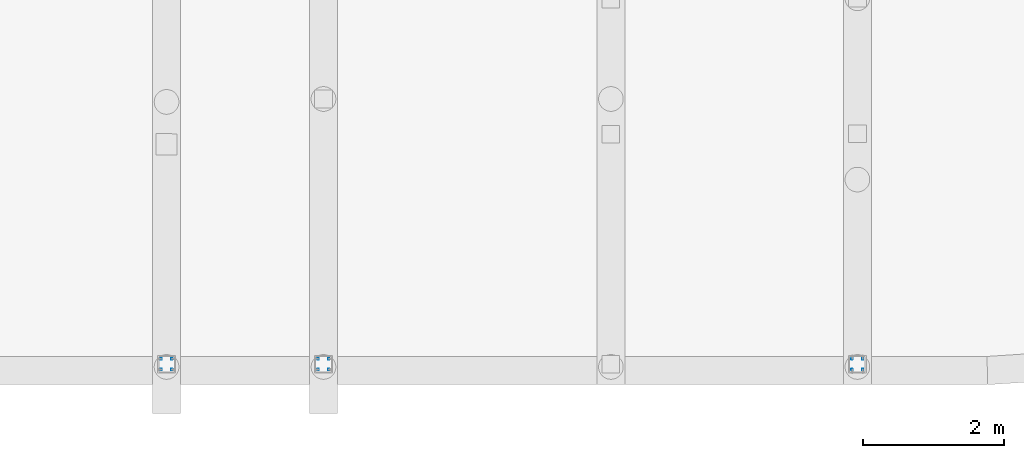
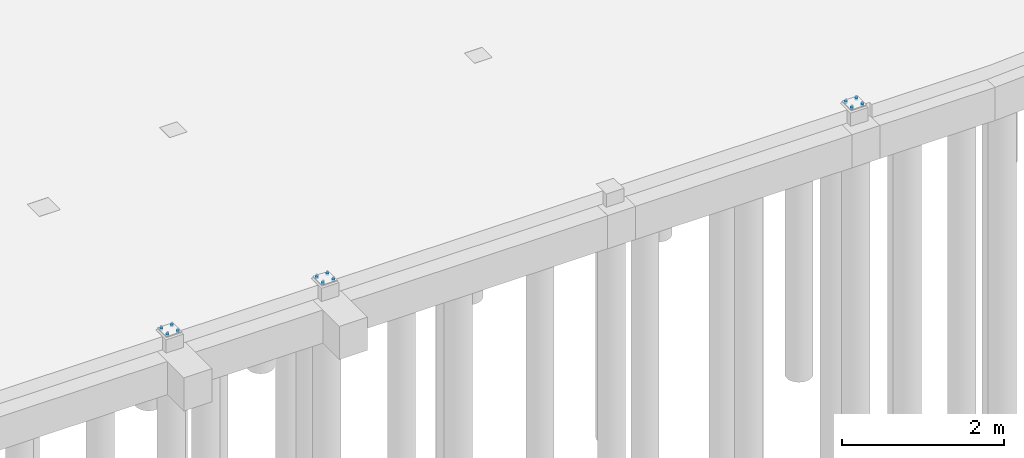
# One storey, part 10 of 22: 3 mechanical fasteners.
"""IFC2X3 building model written with IfcOpenShell, lengths in millimetres."""

from ifc_helpers import new_model, si_unit, frame, origin_with_axes, origin_2d_with_axis, place, context, subcontext, project, spatial, circle, extrude, source, transform, mapped, material, type_object, element, save


model = new_model("IFC2X3")

# Units and contexts
model_context = context("Model", 3, precision=1e-05, world=origin_with_axes())
body_context = subcontext(model_context, "Body", "Model", "MODEL_VIEW")
ifc_project = project(units=[si_unit("LENGTHUNIT", "METRE", prefix="MILLI"), si_unit("AREAUNIT", "SQUARE_METRE"), si_unit("VOLUMEUNIT", "CUBIC_METRE"), si_unit("MASSUNIT", "GRAM", prefix="KILO"), si_unit("TIMEUNIT", "SECOND"), si_unit("PLANEANGLEUNIT", "RADIAN"), si_unit("SOLIDANGLEUNIT", "STERADIAN"), si_unit("THERMODYNAMICTEMPERATUREUNIT", "DEGREE_CELSIUS"), si_unit("LUMINOUSINTENSITYUNIT", "LUMEN")], contexts=[model_context])

# Site, building, storey
site_placement = place(None, origin_with_axes())
site = spatial("IfcSite", under=ifc_project, at=site_placement, Name="Undefined", CompositionType="ELEMENT")
building_placement = place(site_placement, origin_with_axes())
building = spatial("IfcBuilding", under=site, at=building_placement, Name="Undefined", CompositionType="ELEMENT")
storey_placement = place(building_placement, origin_with_axes())
storey = spatial("IfcBuildingStorey", under=building, at=storey_placement, Name="Undefined", CompositionType="ELEMENT", Elevation=0.0)

# Mechanical fasteners
ifc_material = material(Name="Undefined")
mechanical_fastener_type = type_object("IfcMechanicalFastenerType", Name="Bolt assembly")
shared_shape = source(origin_with_axes(), body_context, "Body", "SweptSolid", [
    extrude(circle(Radius=10.0, at=origin_2d_with_axis()), frame((0.0, -15.0, 0.0), z_axis=(0.0, 1.0, 0.0), x_axis=(1.0, 0.0, 0.0)), (0.0, 0.0, 1.0), 15.1),
])
for number, where, z_axis, x_axis, name in (
    (1, (49362.1203901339, 341.121214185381, -35.0), (-1.0, 0.0, 0.0), (0.0, -1.0, 0.0), "Bolt assembly"),
    (2, (39520.7795366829, 274.621222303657, -35.0), (0.0, -1.0, 0.0), (1.0, 0.0, 0.0), "Bolt assembly"),
    (3, (41740.7859170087, 274.621222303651, -35.0), (0.0, -1.0, 0.0), (1.0, 0.0, 0.0), "Bolt assembly"),
):
    element("IfcMechanicalFastener", number, at=place(storey_placement, frame(where, z_axis=z_axis, x_axis=x_axis)), inside=storey, type_object=mechanical_fastener_type, material=ifc_material, Name=name, NominalDiameter=16.0, NominalLength=15.0, context=body_context, shape_type="MappedRepresentation", body=[
        mapped(shared_shape, transform((-8.5, 0.0, -75.0))),
        mapped(shared_shape, transform((-8.5, 0.0, 75.0))),
        mapped(shared_shape, transform((141.5, 0.0, -75.0))),
        mapped(shared_shape, transform((141.5, 0.0, 75.0))),
    ])

save(model, "model.ifc")
